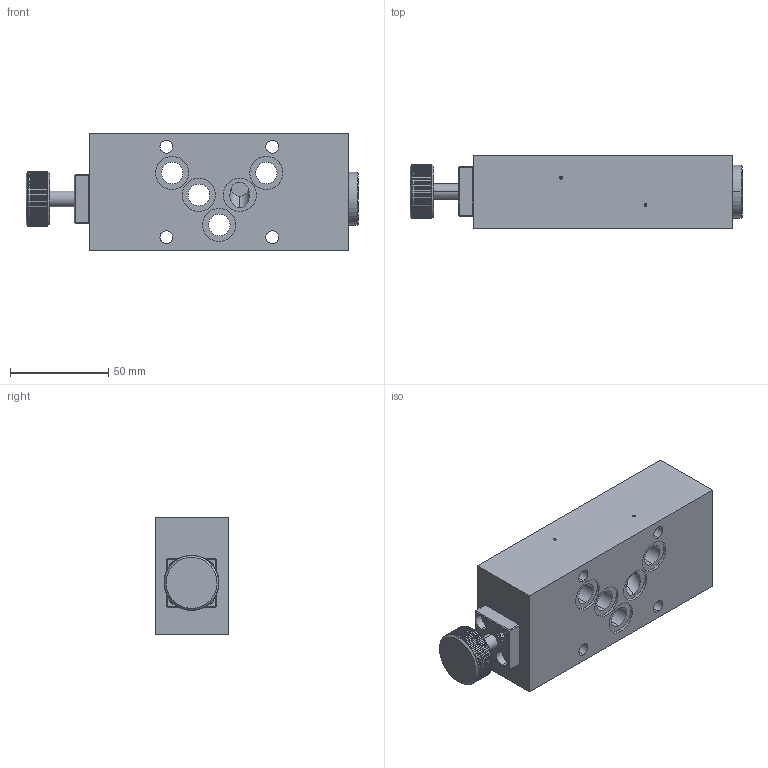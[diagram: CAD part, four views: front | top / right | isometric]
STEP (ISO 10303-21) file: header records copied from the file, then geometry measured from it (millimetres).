
FILE_DESCRIPTION (( 'STEP AP214' ), '1' );
FILE_NAME ('AAHA10_V.STEP', '2017-05-08T12:27:48', ( '' ), ( '' ), 'SwSTEP 2.0', 'SolidWorks 2016', '' );
FILE_SCHEMA (( 'AUTOMOTIVE_DESIGN' ));
Length unit declared in the file: millimetre
Products named in the file (1): AAHA10_V
Bounding box: 169.2 x 37.5 x 60 mm (x, y, z)
Volume: 290643.2 mm3; surface area: 49251.5 mm2
Topology: 7 solids, 9 shells, 556 faces, 1463 edges, 937 vertices
Faces by surface type: cylinder 360, plane 134, cone 48, torus 10, sphere 4
Entity records: 25161 total; most frequent: CARTESIAN_POINT 5579, ORIENTED_EDGE 2890, DIRECTION 2687, EDGE_CURVE 1445, AXIS2_PLACEMENT_3D 1045, VERTEX_POINT 937, EDGE_LOOP 620, LINE 597
